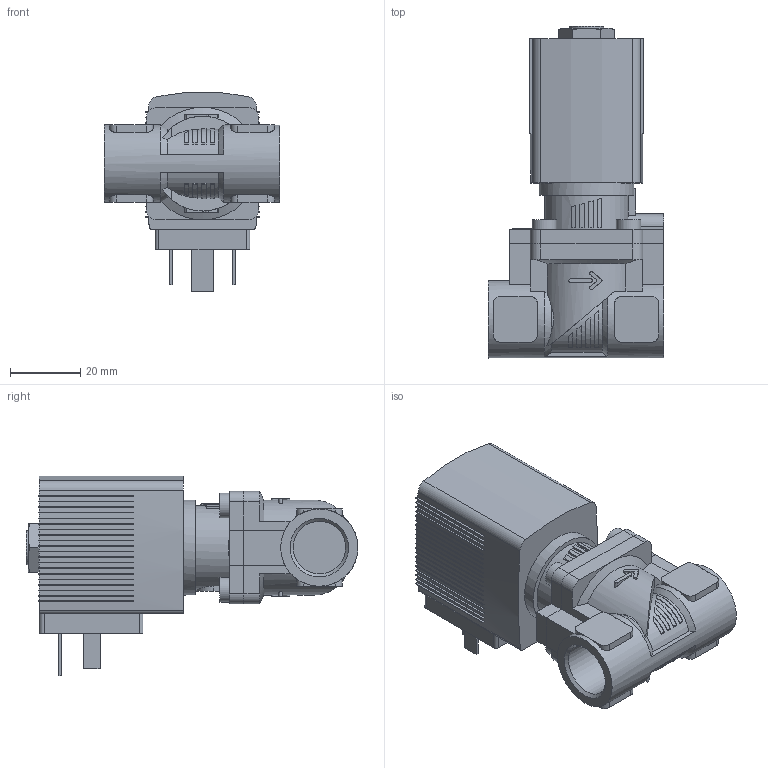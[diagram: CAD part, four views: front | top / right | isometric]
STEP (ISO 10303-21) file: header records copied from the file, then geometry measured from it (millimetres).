
FILE_DESCRIPTION(/* description */ ('STEP AP214'),/* implementation_level */ '2;1');
FILE_NAME(/* name */ '6281-354299-2_2-Way_Solenoid_Valve__Servo-assisted__General_Purpose',/* time_stamp */ '2024-06-17T13:02:35+02:00',/* author */ ('License CC BY-ND 4.0'),/* organization */ ('CADENAS'),/* preprocessor_version */ 'ST-DEVELOPER v19.3',/* originating_system */ 'PARTsolutions',/* authorisation */ ' ');
FILE_SCHEMA (('AUTOMOTIVE_DESIGN {1 0 10303 214 3 1 1}'));
Length unit declared in the file: millimetre
Products named in the file (4): 6281-354299-2/2-Way Solenoid Valve, Servo-assisted, General Purpose; 5281ev100VA2/2-Wege-Magnetventil mit Servomembran-Deckel   ; 6213-10G3/8VA-Gehaeuse-; AC10ex-5OO-Plan-Coil
Assembly tree (3 placements, depth 2):
  6281-354299-2/2-Way Solenoid Valve, Servo-assisted, General Purpose
    5281ev100VA2/2-Wege-Magnetventil mit Servomembran-Deckel   
    6213-10G3/8VA-Gehaeuse-
    AC10ex-5OO-Plan-Coil
Bounding box: 50 x 94.5 x 56.84 mm (x, y, z)
Volume: 91745.3 mm3; surface area: 23144.9 mm2
Topology: 3 solids, 3 shells, 531 faces, 1461 edges, 968 vertices
Faces by surface type: plane 430, cylinder 86, cone 15
Full cylindrical faces by diameter (mm): 2.013 x1, 7 x4, 9.74 x1, 14.95 x2, 22 x1, 27 x1
Entity records: 19398 total; most frequent: CARTESIAN_POINT 3180, ORIENTED_EDGE 2872, DIRECTION 2752, EDGE_CURVE 1436, LINE 1054, VECTOR 1054, VERTEX_POINT 959, AXIS2_PLACEMENT_3D 849
